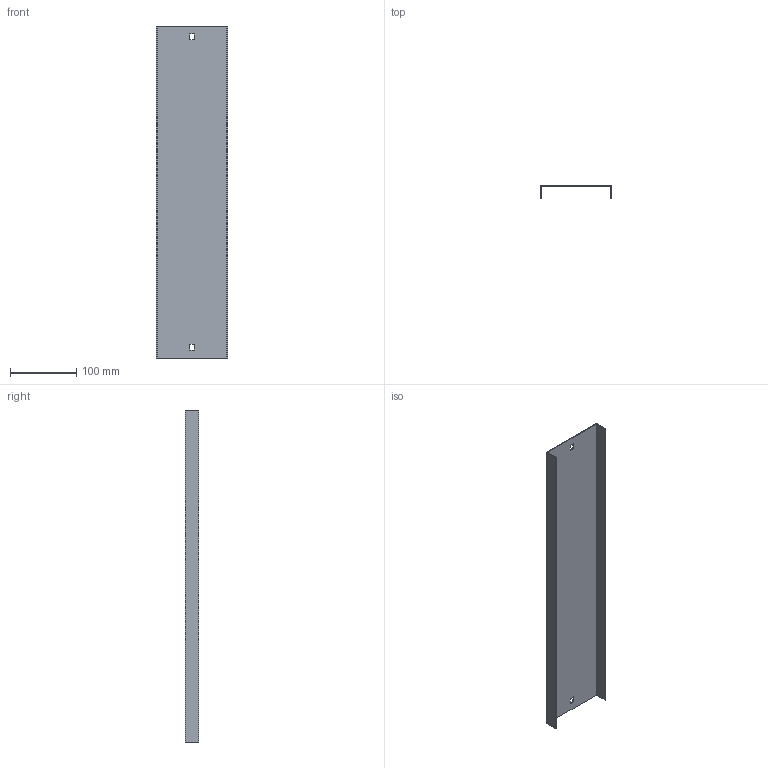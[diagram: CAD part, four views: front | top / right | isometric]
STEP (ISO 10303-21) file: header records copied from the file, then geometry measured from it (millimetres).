
FILE_DESCRIPTION (( 'STEP AP214' ), '1' );
FILE_NAME ('05G7R100.step', '2025-02-21T13:08:17', ( '' ), ( '' ), 'SwSTEP 2.0', 'SolidWorks 2023', '' );
FILE_SCHEMA (( 'AUTOMOTIVE_DESIGN' ));
Length unit declared in the file: millimetre
Products named in the file (1): 05G7R100
Bounding box: 107 x 20 x 500 mm (x, y, z)
Volume: 107824.5 mm3; surface area: 145791 mm2
Topology: 1 solids, 1 shells, 18 faces, 48 edges, 32 vertices
Faces by surface type: plane 18
Entity records: 583 total; most frequent: CARTESIAN_POINT 99, ORIENTED_EDGE 96, DIRECTION 86, LINE 48, VECTOR 48, EDGE_CURVE 48, VERTEX_POINT 32, EDGE_LOOP 22
